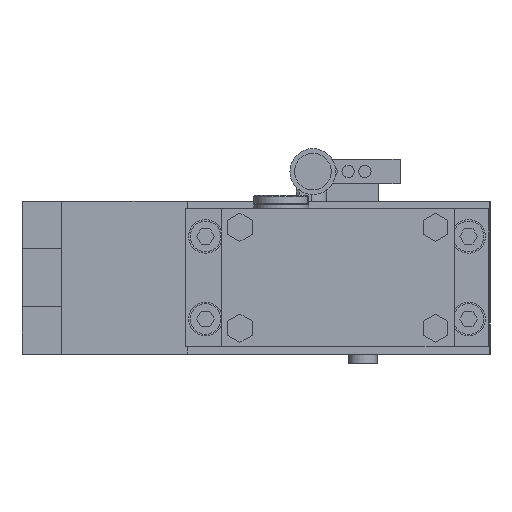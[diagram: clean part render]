
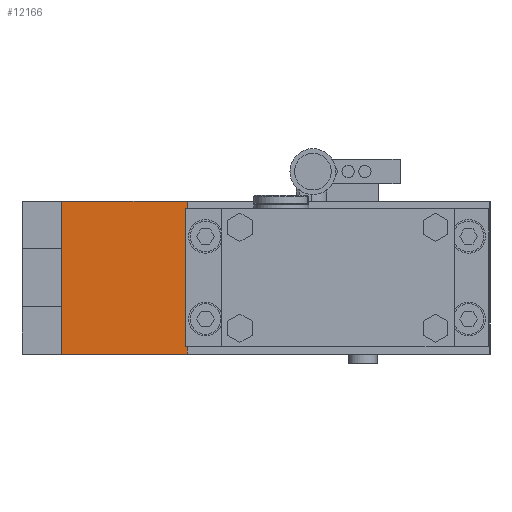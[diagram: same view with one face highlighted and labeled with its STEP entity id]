
A CAD part, front view. The second image highlights one B-rep face of the part: STEP entity #12166.
In plain terms, the highlighted planar face has unit normal (0, -1, 0).
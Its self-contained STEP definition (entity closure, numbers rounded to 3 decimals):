
#339 = ORIENTED_EDGE ( 'NONE', *, *, #9184, .F. ) ;
#643 = DIRECTION ( 'NONE',  ( 0., 0., -1. ) ) ;
#879 = VECTOR ( 'NONE', #643, 1000. ) ;
#1312 = FACE_OUTER_BOUND ( 'NONE', #16813, .T. ) ;
#2553 = VERTEX_POINT ( 'NONE', #4037 ) ;
#2589 = EDGE_CURVE ( 'NONE', #7243, #8080, #7644, .T. ) ;
#3611 = LINE ( 'NONE', #14040, #18034 ) ;
#4037 = CARTESIAN_POINT ( 'NONE',  ( -19., -73.5, -25. ) ) ;
#4267 = EDGE_CURVE ( 'NONE', #8080, #2553, #15257, .T. ) ;
#6557 = DIRECTION ( 'NONE',  ( 1., 0., 0. ) ) ;
#7243 = VERTEX_POINT ( 'NONE', #11244 ) ;
#7488 = AXIS2_PLACEMENT_3D ( 'NONE', #11674, #17319, #8932 ) ;
#7522 = PLANE ( 'NONE',  #7488 ) ;
#7644 = LINE ( 'NONE', #11047, #9593 ) ;
#8080 = VERTEX_POINT ( 'NONE', #14840 ) ;
#8932 = DIRECTION ( 'NONE',  ( 0., 0., 1. ) ) ;
#9184 = EDGE_CURVE ( 'NONE', #7243, #10792, #3611, .T. ) ;
#9593 = VECTOR ( 'NONE', #12483, 1000. ) ;
#10064 = ORIENTED_EDGE ( 'NONE', *, *, #4267, .T. ) ;
#10792 = VERTEX_POINT ( 'NONE', #16186 ) ;
#11047 = CARTESIAN_POINT ( 'NONE',  ( -60., -73.5, 25. ) ) ;
#11244 = CARTESIAN_POINT ( 'NONE',  ( -60., -73.5, 25. ) ) ;
#11446 = ORIENTED_EDGE ( 'NONE', *, *, #2589, .T. ) ;
#11536 = VECTOR ( 'NONE', #6557, 1000. ) ;
#11674 = CARTESIAN_POINT ( 'NONE',  ( -60., -73.5, 25. ) ) ;
#12166 = ADVANCED_FACE ( 'NONE', ( #1312 ), #7522, .F. ) ;
#12206 = EDGE_CURVE ( 'NONE', #10792, #2553, #15752, .T. ) ;
#12483 = DIRECTION ( 'NONE',  ( 0., 0., -1. ) ) ;
#13336 = ORIENTED_EDGE ( 'NONE', *, *, #12206, .F. ) ;
#13530 = CARTESIAN_POINT ( 'NONE',  ( -60., -73.5, -25. ) ) ;
#14040 = CARTESIAN_POINT ( 'NONE',  ( -60., -73.5, 25. ) ) ;
#14840 = CARTESIAN_POINT ( 'NONE',  ( -60., -73.5, -25. ) ) ;
#15257 = LINE ( 'NONE', #13530, #11536 ) ;
#15446 = DIRECTION ( 'NONE',  ( 1., 0., 0. ) ) ;
#15752 = LINE ( 'NONE', #17374, #879 ) ;
#16186 = CARTESIAN_POINT ( 'NONE',  ( -19., -73.5, 25. ) ) ;
#16813 = EDGE_LOOP ( 'NONE', ( #11446, #10064, #13336, #339 ) ) ;
#17319 = DIRECTION ( 'NONE',  ( 0., 1., 0. ) ) ;
#17374 = CARTESIAN_POINT ( 'NONE',  ( -19., -73.5, 25. ) ) ;
#18034 = VECTOR ( 'NONE', #15446, 1000. ) ;
